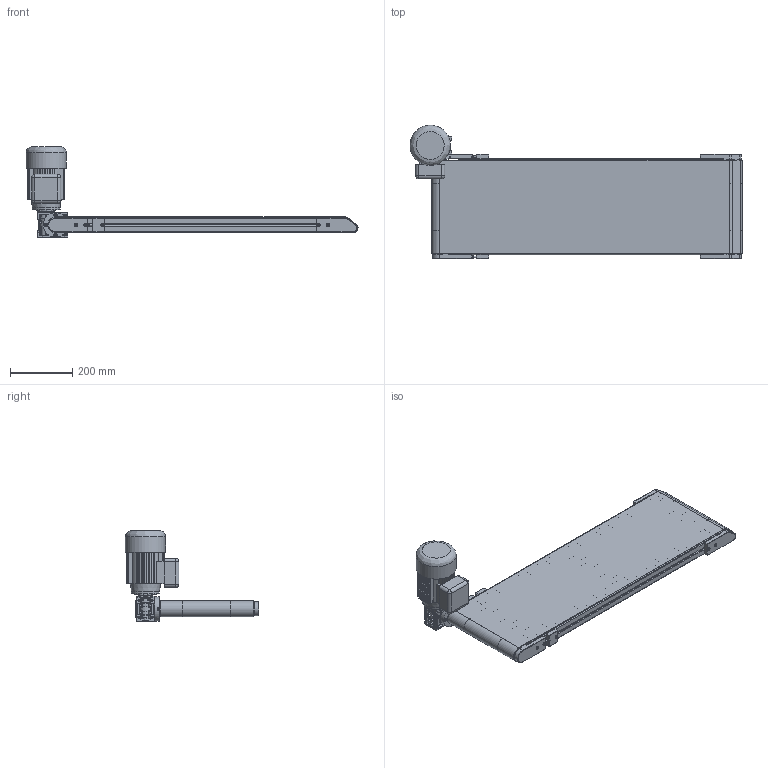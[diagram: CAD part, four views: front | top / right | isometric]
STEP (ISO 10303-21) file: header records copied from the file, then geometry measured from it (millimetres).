
FILE_DESCRIPTION (( 'STEP AP214' ), '1' );
FILE_NAME ('TB52 300X1000 DIRECT A GAUCHE + COUTEAU D31.STEP', '2022-10-10T13:47:21', ( '' ), ( '' ), 'SwSTEP 2.0', 'SolidWorks 2022', '' );
FILE_SCHEMA (( 'AUTOMOTIVE_DESIGN' ));
Length unit declared in the file: millimetre
Products named in the file (25): 983-001; 983-015; 982-003; 982-024; CHC THE_910-065H; 982-000; CHASSIS TB52 COUTEAU D30_Défaut<Brut d''usinage>; 982-008; 982-016; 983-002; TH_910-167; TH_910-229; 982-011; 982-012-180W; 982-025; CLAVETTE_910-165; 982-002; 982-001B_982-001B-300; 982-026; 910-010; 980-000; CHC THE_910-064H; 982-023_982-023-300; TB52 300X1000 DIRECT A GAUCHE + COUTEAU D31; 983-000
Assembly tree (50 placements, depth 3):
  TB52 300X1000 DIRECT A GAUCHE + COUTEAU D31
    CHASSIS TB52 COUTEAU D30_Défaut<Brut d''usinage>
    983-000
      982-016
      980-000
      982-002
      CHC THE_910-065H  x2
      910-010  x2
      CLAVETTE_910-165
      CHC THE_910-064H  x3
    983-002  x2
      982-008
      TH_910-167
      CHC THE_910-065H
      910-010
    982-001B_982-001B-300
    983-001
      982-000
      982-003
      CHC THE_910-065H  x2
      910-010  x2
    982-011
    TH_910-229  x4
    982-012-180W
    983-015
      982-025
      CHC THE_910-065H  x4
      910-010  x4
      982-024
      982-026  x4
      982-023_982-023-300  x2
Bounding box: 1069.46 x 430 x 292 mm (x, y, z)
Volume: 8087604.1 mm3; surface area: 3173179.9 mm2
Topology: 55 solids, 60 shells, 2037 faces, 5046 edges, 3265 vertices
Faces by surface type: plane 1302, cylinder 346, cone 305, torus 79, bspline 5
Full cylindrical faces by diameter (mm): 3.242 x1, 4.2 x8, 5 x16, 5.98 x13, 6 x15, 6.5 x13, 7 x4, 7.3 x5, 8 x2, 9 x8, 10 x13, 11 x14, 14 x13, 15 x3, 16 x1, 19 x8, 20 x6, 21 x2, 24 x10, 25 x2, 26 x2, 29 x4, 30 x1, 31 x2, 35 x4, 36 x2, 37 x1, 42 x2, 45 x1, 49 x1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
Entity records: 46068 total; most frequent: CARTESIAN_POINT 9312, ORIENTED_EDGE 7082, DIRECTION 6855, EDGE_CURVE 3541, VECTOR 2465, LINE 2465, VERTEX_POINT 2419, AXIS2_PLACEMENT_3D 2195
